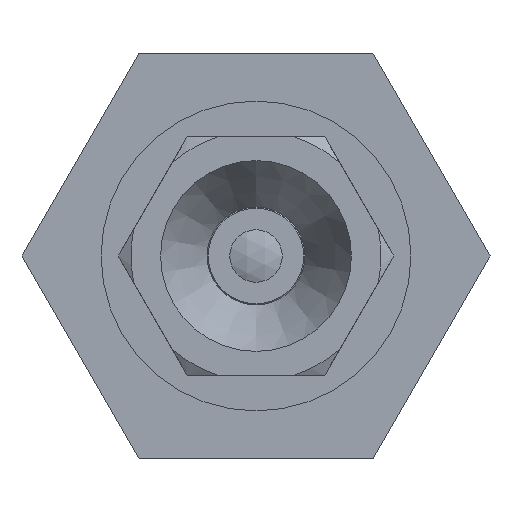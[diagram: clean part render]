
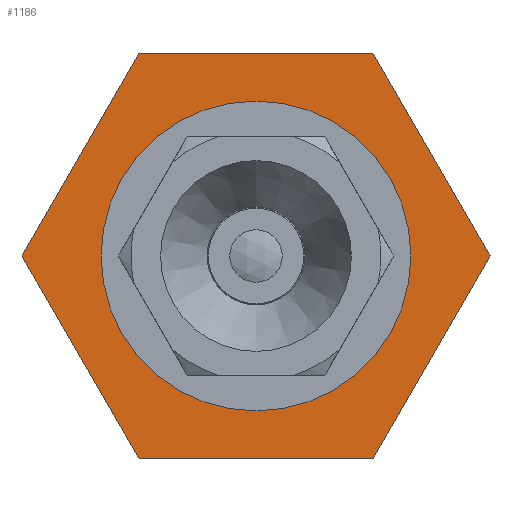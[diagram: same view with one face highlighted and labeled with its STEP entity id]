
A CAD part, front view. The second image highlights one B-rep face of the part: STEP entity #1186.
In plain terms, the highlighted planar face has unit normal (0, -1, 0) as drawn and (-1, 0, 0) by its records, which use the part's own axes.
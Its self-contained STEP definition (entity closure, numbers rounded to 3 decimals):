
#50=LINE('',#2598,#86);
#53=LINE('',#2604,#89);
#56=LINE('',#2610,#92);
#59=LINE('',#2616,#95);
#62=LINE('',#2622,#98);
#65=LINE('',#2627,#101);
#86=VECTOR('',#2161,1000.);
#89=VECTOR('',#2166,1000.);
#92=VECTOR('',#2171,1000.);
#95=VECTOR('',#2176,1000.);
#98=VECTOR('',#2181,1000.);
#101=VECTOR('',#2186,1000.);
#332=ORIENTED_EDGE('',*,*,#530,.F.);
#333=ORIENTED_EDGE('',*,*,#529,.F.);
#334=ORIENTED_EDGE('',*,*,#526,.F.);
#335=ORIENTED_EDGE('',*,*,#523,.F.);
#336=ORIENTED_EDGE('',*,*,#520,.F.);
#337=ORIENTED_EDGE('',*,*,#517,.F.);
#338=ORIENTED_EDGE('',*,*,#514,.F.);
#514=EDGE_CURVE('',#630,#631,#50,.T.);
#517=EDGE_CURVE('',#631,#633,#53,.T.);
#520=EDGE_CURVE('',#633,#635,#56,.T.);
#523=EDGE_CURVE('',#635,#637,#59,.T.);
#526=EDGE_CURVE('',#637,#639,#62,.T.);
#529=EDGE_CURVE('',#639,#630,#65,.T.);
#530=EDGE_CURVE('',#640,#640,#719,.T.);
#630=VERTEX_POINT('',#2597);
#631=VERTEX_POINT('',#2599);
#633=VERTEX_POINT('',#2605);
#635=VERTEX_POINT('',#2611);
#637=VERTEX_POINT('',#2617);
#639=VERTEX_POINT('',#2623);
#640=VERTEX_POINT('',#2630);
#719=CIRCLE('',#1907,6.5);
#826=EDGE_LOOP('',(#332));
#827=EDGE_LOOP('',(#333,#334,#335,#336,#337,#338));
#995=FACE_BOUND('',#826,.T.);
#996=FACE_BOUND('',#827,.T.);
#1130=PLANE('',#1906);
#1186=ADVANCED_FACE('',(#995,#996),#1130,.F.);
#1906=AXIS2_PLACEMENT_3D('',#2628,#2187,#2188);
#1907=AXIS2_PLACEMENT_3D('',#2629,#2189,#2190);
#2161=DIRECTION('',(0.,-0.5,0.866));
#2166=DIRECTION('',(0.,-1.,0.));
#2171=DIRECTION('',(0.,-0.5,-0.866));
#2176=DIRECTION('',(0.,0.5,-0.866));
#2181=DIRECTION('',(0.,1.,0.));
#2186=DIRECTION('',(0.,0.5,0.866));
#2187=DIRECTION('',(1.,0.,0.));
#2188=DIRECTION('',(0.,0.,-1.));
#2189=DIRECTION('',(-1.,0.,0.));
#2190=DIRECTION('',(0.,0.,1.));
#2597=CARTESIAN_POINT('',(8.,9.815,0.));
#2598=CARTESIAN_POINT('',(8.,9.815,0.));
#2599=CARTESIAN_POINT('',(8.,4.907,8.5));
#2604=CARTESIAN_POINT('',(8.,4.907,8.5));
#2605=CARTESIAN_POINT('',(8.,-4.907,8.5));
#2610=CARTESIAN_POINT('',(8.,-4.907,8.5));
#2611=CARTESIAN_POINT('',(8.,-9.815,0.));
#2616=CARTESIAN_POINT('',(8.,-9.815,0.));
#2617=CARTESIAN_POINT('',(8.,-4.907,-8.5));
#2622=CARTESIAN_POINT('',(8.,-4.907,-8.5));
#2623=CARTESIAN_POINT('',(8.,4.907,-8.5));
#2627=CARTESIAN_POINT('',(8.,4.907,-8.5));
#2628=CARTESIAN_POINT('',(8.,0.,12.5));
#2629=CARTESIAN_POINT('',(8.,0.,0.));
#2630=CARTESIAN_POINT('',(8.,0.,6.5));
